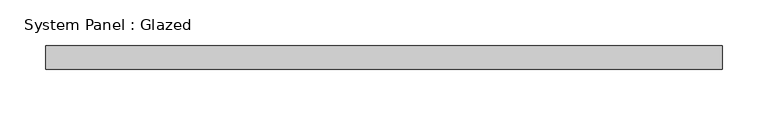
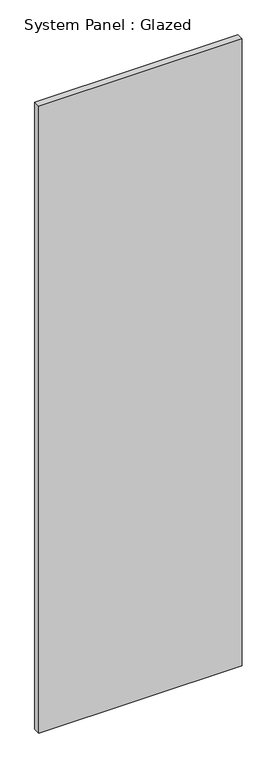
"""IFC4 building model written with IfcOpenShell, lengths in millimetres: plate geometry, System Panel : Glazed."""

from ifc_helpers import new_model, si_unit, origin, origin_with_axes, place, context, project, spatial, polyline, outline, extrude, source, transform, mapped, element, save


def system_panel_glazed_6323ba00(model_context):
    return source(origin(), model_context, "Body", "SweptSolid", [
        extrude(outline(polyline([(368.2999999, 19.05), (-368.2999999, 19.05), (-368.2999999, 44.45), (368.2999999, 44.45), (368.2999999, 19.05)])), origin_with_axes(), (0.0, 0.0, 1.0), 2400.3),
    ])


if __name__ == "__main__":
    model = new_model("IFC4")
    model_context = context("Model", 3, world=origin())
    ifc_project = project(units=[si_unit("LENGTHUNIT", "METRE", prefix="MILLI")], contexts=[model_context])
    site = spatial("IfcSite", under=ifc_project)
    building = spatial("IfcBuilding", under=site)
    placement = place(None, origin())
    system_panel_glazed_shape = system_panel_glazed_6323ba00(model_context)
    element("IfcPlate", 1, ObjectType="System Panel : Glazed", at=placement, inside=building, context=model_context, shape_type="MappedRepresentation", body=[
        mapped(system_panel_glazed_shape, transform((0.0, 0.0, 0.0), x_axis=(1.0, 0.0, 0.0), y_axis=(0.0, 1.0, 0.0), z_axis=(0.0, 0.0, 1.0))),
    ])
    save(model, "model.ifc")
